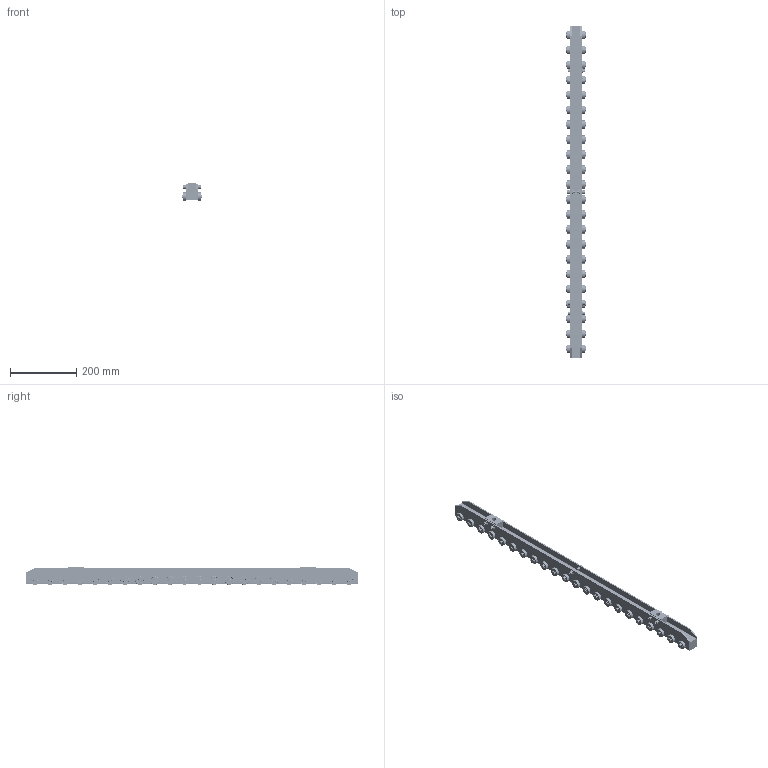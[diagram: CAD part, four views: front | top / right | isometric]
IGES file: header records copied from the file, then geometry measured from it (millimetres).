
Global section: file name: SPR-RSPO-035Wx050Hx1000L; native system: unknown; preprocessor: unknown; author: unknown; organization: unknown; date: 20221115.144931; units: millimetre
Bounding box: 62 x 1000 x 53.98 mm (x, y, z)
Volume: 671702.6 mm3; surface area: 708959.5 mm2
Topology: 708 solids, 752 shells, 3884 faces, 11080 edges, 7532 vertices
Faces by surface type: bspline 3884
